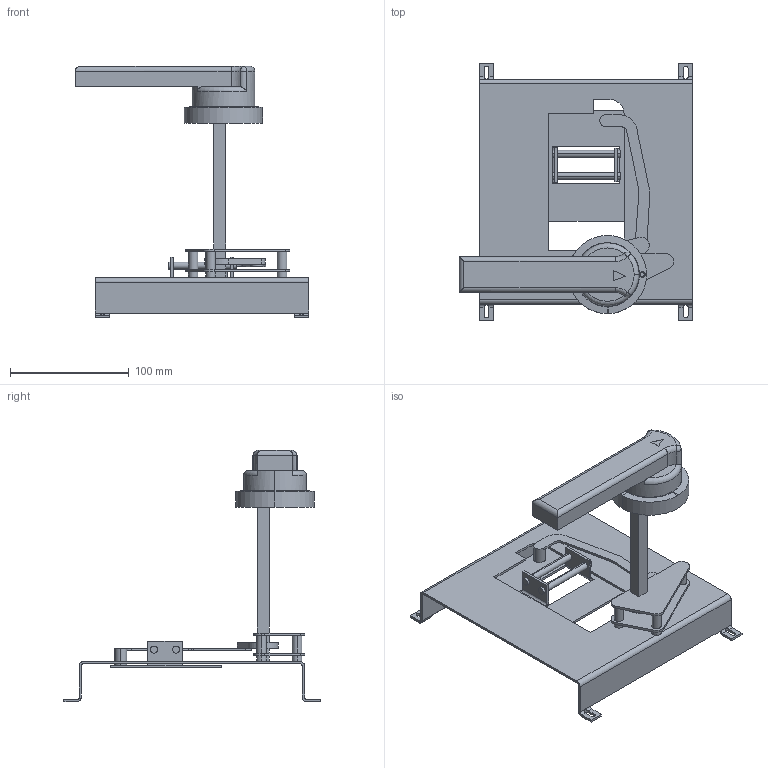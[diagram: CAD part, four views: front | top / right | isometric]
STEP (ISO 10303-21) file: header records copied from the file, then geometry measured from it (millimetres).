
FILE_DESCRIPTION (( 'STEP AP203' ), '1' );
FILE_NAME ('Ðó÷íîé ïîâîðîòíûé ïðèâîä ýêñöåíòðèêîì ê ÂÀ-99Ì 630À.STEP', '2018-06-09T06:38:34', ( '' ), ( '' ), 'SwSTEP 2.0', 'SolidWorks 2017', '' );
FILE_SCHEMA (( 'CONFIG_CONTROL_DESIGN' ));
Length unit declared in the file: millimetre
Products named in the file (1): Ðó÷íîé ïîâîðîòíûé ïðèâîä ýêñöåíòðèêîì ê ÂÀ-99Ì 630À
Bounding box: 197 x 216 x 212.2 mm (x, y, z)
Volume: 280765.3 mm3; surface area: 136760.6 mm2
Topology: 1 solids, 1 shells, 221 faces, 612 edges, 399 vertices
Faces by surface type: plane 126, cylinder 78, torus 6, cone 5, bspline 4, sphere 2
Entity records: 7637 total; most frequent: CARTESIAN_POINT 1785, ORIENTED_EDGE 1216, DIRECTION 1196, EDGE_CURVE 608, AXIS2_PLACEMENT_3D 404, VERTEX_POINT 397, LINE 388, VECTOR 388
